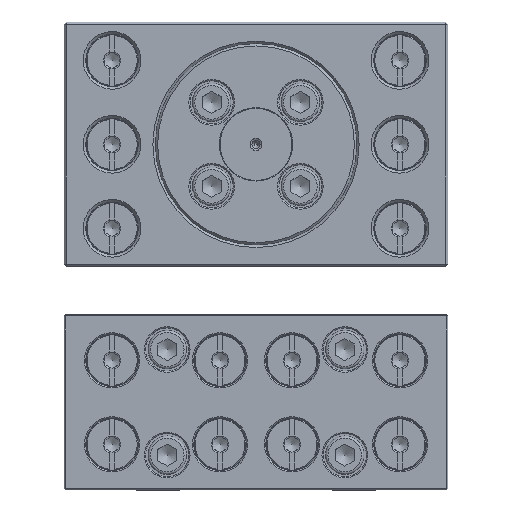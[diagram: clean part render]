
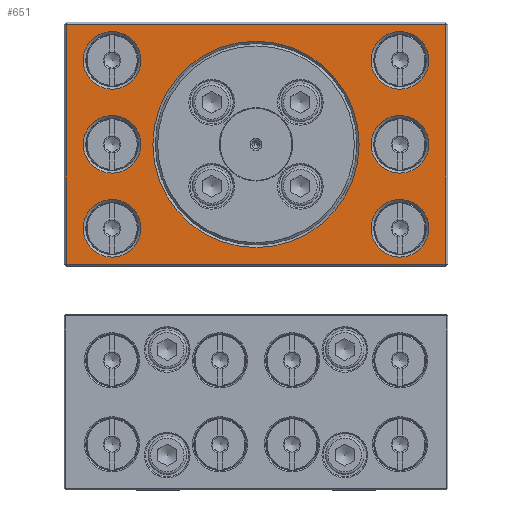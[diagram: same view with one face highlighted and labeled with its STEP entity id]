
A CAD part, top view. The second image highlights one B-rep face of the part: STEP entity #651.
In plain terms, the highlighted planar face has unit normal (0, 0, 1).
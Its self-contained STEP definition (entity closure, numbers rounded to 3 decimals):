
#651=ADVANCED_FACE('',(#8734,#8736,#8738,#8740,#8742,#8744,#8746,#8748),#8750,.T.);
#8734=FACE_BOUND('',#8735,.T.);
#8735=EDGE_LOOP('',(#15702,#15703,#15704,#15705));
#8736=FACE_BOUND('',#8737,.T.);
#8737=EDGE_LOOP('',(#15706));
#8738=FACE_BOUND('',#8739,.T.);
#8739=EDGE_LOOP('',(#15707));
#8740=FACE_BOUND('',#8741,.T.);
#8741=EDGE_LOOP('',(#15708));
#8742=FACE_BOUND('',#8743,.T.);
#8743=EDGE_LOOP('',(#15709));
#8744=FACE_BOUND('',#8745,.T.);
#8745=EDGE_LOOP('',(#15710));
#8746=FACE_BOUND('',#8747,.T.);
#8747=EDGE_LOOP('',(#15711));
#8748=FACE_BOUND('',#8749,.T.);
#8749=EDGE_LOOP('',(#15712));
#8750=PLANE('',#8751);
#8751=AXIS2_PLACEMENT_3D('',#8752,#8753,#8754);
#8752=CARTESIAN_POINT('',(0.,107.5,29.));
#8753=DIRECTION('',(0.,0.,1.));
#8754=DIRECTION('',(-1.,0.,0.));
#15702=ORIENTED_EDGE('',*,*,#19794,.T.);
#15703=ORIENTED_EDGE('',*,*,#19795,.T.);
#15704=ORIENTED_EDGE('',*,*,#19796,.T.);
#15705=ORIENTED_EDGE('',*,*,#19797,.T.);
#15706=ORIENTED_EDGE('',*,*,#19798,.T.);
#15707=ORIENTED_EDGE('',*,*,#19799,.T.);
#15708=ORIENTED_EDGE('',*,*,#19800,.T.);
#15709=ORIENTED_EDGE('',*,*,#19781,.T.);
#15710=ORIENTED_EDGE('',*,*,#19801,.T.);
#15711=ORIENTED_EDGE('',*,*,#19802,.T.);
#15712=ORIENTED_EDGE('',*,*,#19803,.T.);
#19781=EDGE_CURVE('',#21881,#21881,#21882,.F.);
#19794=EDGE_CURVE('',#21904,#21905,#21906,.T.);
#19795=EDGE_CURVE('',#21905,#21907,#21908,.T.);
#19796=EDGE_CURVE('',#21907,#21909,#21910,.T.);
#19797=EDGE_CURVE('',#21909,#21904,#21911,.T.);
#19798=EDGE_CURVE('',#21912,#21912,#21913,.F.);
#19799=EDGE_CURVE('',#21914,#21914,#21915,.F.);
#19800=EDGE_CURVE('',#21916,#21916,#21917,.F.);
#19801=EDGE_CURVE('',#21918,#21918,#21919,.F.);
#19802=EDGE_CURVE('',#21920,#21920,#21921,.F.);
#19803=EDGE_CURVE('',#21922,#21922,#21923,.F.);
#21881=VERTEX_POINT('',#25731);
#21882=CIRCLE('',#25732,43.);
#21904=VERTEX_POINT('',#25790);
#21905=VERTEX_POINT('',#25791);
#21906=LINE('',#25792,#25793);
#21907=VERTEX_POINT('',#25795);
#21908=LINE('',#25796,#25797);
#21909=VERTEX_POINT('',#25799);
#21910=LINE('',#25800,#25801);
#21911=LINE('',#25803,#25804);
#21912=VERTEX_POINT('',#25806);
#21913=CIRCLE('',#25807,12.);
#21914=VERTEX_POINT('',#25811);
#21915=CIRCLE('',#25812,12.);
#21916=VERTEX_POINT('',#25816);
#21917=CIRCLE('',#25817,12.);
#21918=VERTEX_POINT('',#25821);
#21919=CIRCLE('',#25822,12.);
#21920=VERTEX_POINT('',#25826);
#21921=CIRCLE('',#25827,12.);
#21922=VERTEX_POINT('',#25831);
#21923=CIRCLE('',#25832,12.);
#25731=CARTESIAN_POINT('',(0.,150.5,29.));
#25732=AXIS2_PLACEMENT_3D('',#25733,#25734,#25735);
#25733=CARTESIAN_POINT('',(0.,107.5,29.));
#25734=DIRECTION('',(0.,0.,1.));
#25735=DIRECTION('',(0.,1.,0.));
#25790=CARTESIAN_POINT('',(79.,57.5,29.));
#25791=CARTESIAN_POINT('',(79.,157.5,29.));
#25792=CARTESIAN_POINT('',(79.,57.5,29.));
#25793=VECTOR('',#25794,1.);
#25794=DIRECTION('',(0.,1.,0.));
#25795=CARTESIAN_POINT('',(-79.,157.5,29.));
#25796=CARTESIAN_POINT('',(79.,157.5,29.));
#25797=VECTOR('',#25798,1.);
#25798=DIRECTION('',(-1.,0.,0.));
#25799=CARTESIAN_POINT('',(-79.,57.5,29.));
#25800=CARTESIAN_POINT('',(-79.,157.5,29.));
#25801=VECTOR('',#25802,1.);
#25802=DIRECTION('',(0.,-1.,0.));
#25803=CARTESIAN_POINT('',(-79.,57.5,29.));
#25804=VECTOR('',#25805,1.);
#25805=DIRECTION('',(1.,0.,0.));
#25806=CARTESIAN_POINT('',(-60.,154.5,29.));
#25807=AXIS2_PLACEMENT_3D('',#25808,#25809,#25810);
#25808=CARTESIAN_POINT('',(-60.,142.5,29.));
#25809=DIRECTION('',(0.,0.,1.));
#25810=DIRECTION('',(0.,1.,0.));
#25811=CARTESIAN_POINT('',(-60.,84.5,29.));
#25812=AXIS2_PLACEMENT_3D('',#25813,#25814,#25815);
#25813=CARTESIAN_POINT('',(-60.,72.5,29.));
#25814=DIRECTION('',(0.,0.,1.));
#25815=DIRECTION('',(0.,1.,0.));
#25816=CARTESIAN_POINT('',(60.,119.5,29.));
#25817=AXIS2_PLACEMENT_3D('',#25818,#25819,#25820);
#25818=CARTESIAN_POINT('',(60.,107.5,29.));
#25819=DIRECTION('',(0.,0.,1.));
#25820=DIRECTION('',(0.,1.,0.));
#25821=CARTESIAN_POINT('',(60.,154.5,29.));
#25822=AXIS2_PLACEMENT_3D('',#25823,#25824,#25825);
#25823=CARTESIAN_POINT('',(60.,142.5,29.));
#25824=DIRECTION('',(0.,0.,1.));
#25825=DIRECTION('',(0.,1.,0.));
#25826=CARTESIAN_POINT('',(-60.,119.5,29.));
#25827=AXIS2_PLACEMENT_3D('',#25828,#25829,#25830);
#25828=CARTESIAN_POINT('',(-60.,107.5,29.));
#25829=DIRECTION('',(0.,0.,1.));
#25830=DIRECTION('',(0.,1.,0.));
#25831=CARTESIAN_POINT('',(60.,84.5,29.));
#25832=AXIS2_PLACEMENT_3D('',#25833,#25834,#25835);
#25833=CARTESIAN_POINT('',(60.,72.5,29.));
#25834=DIRECTION('',(0.,0.,1.));
#25835=DIRECTION('',(0.,1.,0.));
